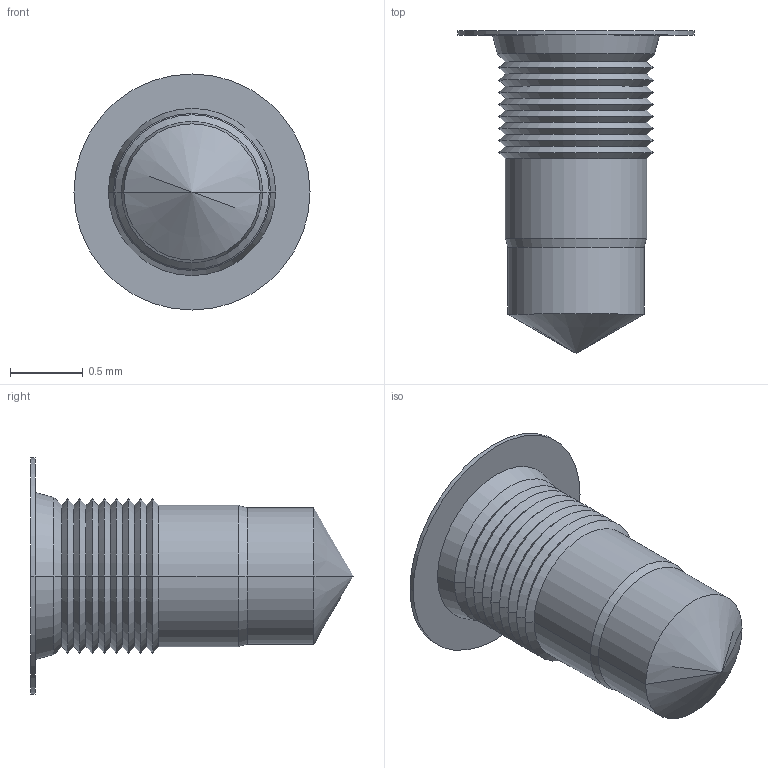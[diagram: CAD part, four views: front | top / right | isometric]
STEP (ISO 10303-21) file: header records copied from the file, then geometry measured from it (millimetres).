
FILE_DESCRIPTION((''),'2;1');
FILE_NAME('0032-3D.stp','2011-04-18T11:09:21',(''),(''),'Mechanical Desktop 2009','Mechanical Desktop 2009',', , ');
FILE_SCHEMA(('CONFIG_CONTROL_DESIGN'));
Length unit declared in the file: millimetre
Products named in the file (1): Product
Bounding box: 1.62 x 2.22 x 1.62 mm (x, y, z)
Volume: 1.6 mm3; surface area: 11.1 mm2
Topology: 1 solids, 1 shells, 48 faces, 96 edges, 49 vertices
Faces by surface type: cone 40, cylinder 6, plane 2
Entity records: 1293 total; most frequent: DIRECTION 240, CARTESIAN_POINT 192, ORIENTED_EDGE 188, AXIS2_PLACEMENT_3D 97, EDGE_CURVE 94, VERTEX_POINT 49, EDGE_LOOP 49, CIRCLE 48
